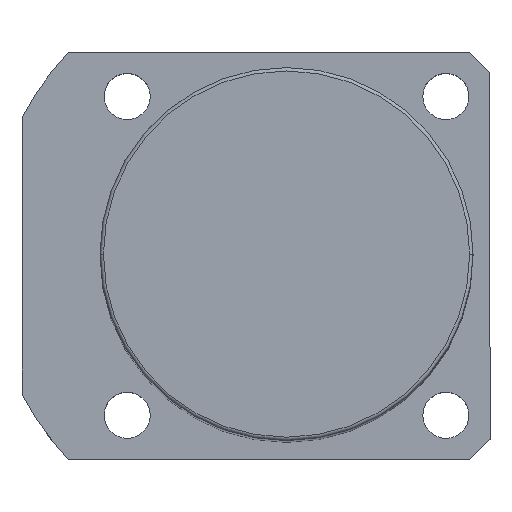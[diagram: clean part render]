
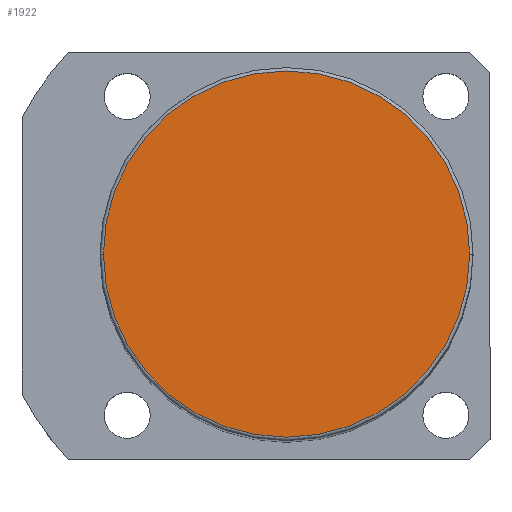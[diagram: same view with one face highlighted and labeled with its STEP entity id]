
A CAD part, top view. The second image highlights one B-rep face of the part: STEP entity #1922.
In plain terms, the highlighted planar face has unit normal (0, 0, 1).
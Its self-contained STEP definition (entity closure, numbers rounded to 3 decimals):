
#128 = PLANE ( 'NONE',  #1221 ) ;
#136 = CARTESIAN_POINT ( 'NONE',  ( 0., 0., 161. ) ) ;
#251 = AXIS2_PLACEMENT_3D ( 'NONE', #1477, #1472, #1459 ) ;
#278 = DIRECTION ( 'NONE',  ( 0., 0., 1. ) ) ;
#286 = DIRECTION ( 'NONE',  ( 1., 0., 0. ) ) ;
#350 = CARTESIAN_POINT ( 'NONE',  ( 27., 0., 161. ) ) ;
#805 = FACE_OUTER_BOUND ( 'NONE', #959, .T. ) ;
#846 = ORIENTED_EDGE ( 'NONE', *, *, #1875, .T. ) ;
#959 = EDGE_LOOP ( 'NONE', ( #846, #1258 ) ) ;
#961 = DIRECTION ( 'NONE',  ( 0., 0., 1. ) ) ;
#967 = DIRECTION ( 'NONE',  ( 1., 0., 0. ) ) ;
#1122 = CARTESIAN_POINT ( 'NONE',  ( -27., 0., 161. ) ) ;
#1221 = AXIS2_PLACEMENT_3D ( 'NONE', #136, #278, #286 ) ;
#1258 = ORIENTED_EDGE ( 'NONE', *, *, #1637, .T. ) ;
#1275 = CIRCLE ( 'NONE', #1383, 27. ) ;
#1278 = CARTESIAN_POINT ( 'NONE',  ( 0., 0., 161. ) ) ;
#1338 = CIRCLE ( 'NONE', #251, 27. ) ;
#1347 = VERTEX_POINT ( 'NONE', #1122 ) ;
#1383 = AXIS2_PLACEMENT_3D ( 'NONE', #1278, #961, #967 ) ;
#1459 = DIRECTION ( 'NONE',  ( 1., 0., 0. ) ) ;
#1472 = DIRECTION ( 'NONE',  ( 0., 0., 1. ) ) ;
#1477 = CARTESIAN_POINT ( 'NONE',  ( 0., 0., 161. ) ) ;
#1555 = VERTEX_POINT ( 'NONE', #350 ) ;
#1637 = EDGE_CURVE ( 'NONE', #1347, #1555, #1275, .T. ) ;
#1875 = EDGE_CURVE ( 'NONE', #1555, #1347, #1338, .T. ) ;
#1922 = ADVANCED_FACE ( 'NONE', ( #805 ), #128, .T. ) ;
